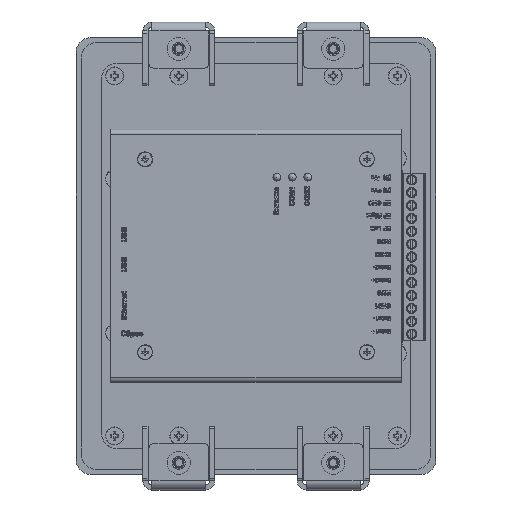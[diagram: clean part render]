
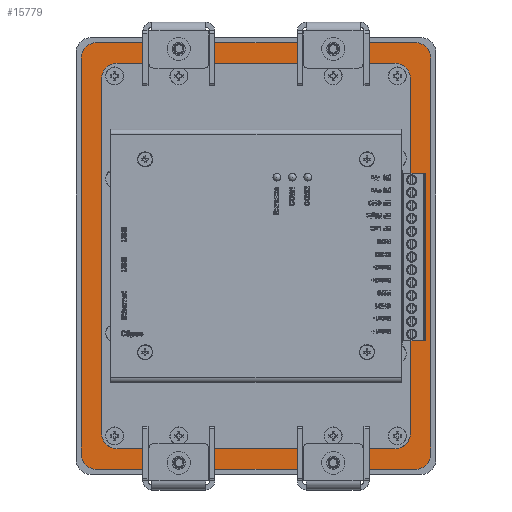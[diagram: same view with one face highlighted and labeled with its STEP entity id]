
A CAD part, top view. The second image highlights one B-rep face of the part: STEP entity #15779.
In plain terms, the highlighted planar face has unit normal (0, 0, 1).
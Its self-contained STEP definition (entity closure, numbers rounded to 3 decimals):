
#15779=ADVANCED_FACE('',(#55398,#55400),#55402,.F.);
#55398=FACE_BOUND('',#55399,.T.);
#55399=EDGE_LOOP('',(#88155,#88156,#88157,#88158,#88159,#88160,#88161,#88162));
#55400=FACE_BOUND('',#55401,.T.);
#55401=EDGE_LOOP('',(#88163,#88164,#88165,#88166,#88167,#88168,#88169,#88170));
#55402=PLANE('',#55403);
#55403=AXIS2_PLACEMENT_3D('',#55404,#55405,#55406);
#55404=CARTESIAN_POINT('',(-10.952,18.403,-1.58));
#55405=DIRECTION('',(0.,0.,-1.));
#55406=DIRECTION('',(0.,1.,0.));
#88155=ORIENTED_EDGE('',*,*,#113548,.F.);
#88156=ORIENTED_EDGE('',*,*,#113549,.F.);
#88157=ORIENTED_EDGE('',*,*,#113550,.F.);
#88158=ORIENTED_EDGE('',*,*,#113551,.F.);
#88159=ORIENTED_EDGE('',*,*,#113552,.F.);
#88160=ORIENTED_EDGE('',*,*,#113553,.F.);
#88161=ORIENTED_EDGE('',*,*,#113554,.F.);
#88162=ORIENTED_EDGE('',*,*,#113555,.F.);
#88163=ORIENTED_EDGE('',*,*,#112834,.T.);
#88164=ORIENTED_EDGE('',*,*,#112816,.T.);
#88165=ORIENTED_EDGE('',*,*,#112814,.T.);
#88166=ORIENTED_EDGE('',*,*,#112812,.T.);
#88167=ORIENTED_EDGE('',*,*,#112809,.T.);
#88168=ORIENTED_EDGE('',*,*,#112840,.T.);
#88169=ORIENTED_EDGE('',*,*,#112838,.T.);
#88170=ORIENTED_EDGE('',*,*,#112836,.T.);
#112809=EDGE_CURVE('',#128955,#128956,#128957,.F.);
#112812=EDGE_CURVE('',#128960,#128955,#128961,.F.);
#112814=EDGE_CURVE('',#128963,#128960,#128964,.F.);
#112816=EDGE_CURVE('',#128966,#128963,#128967,.F.);
#112834=EDGE_CURVE('',#129001,#128966,#129002,.F.);
#112836=EDGE_CURVE('',#129004,#129001,#129005,.F.);
#112838=EDGE_CURVE('',#129007,#129004,#129008,.F.);
#112840=EDGE_CURVE('',#128956,#129007,#129010,.F.);
#113548=EDGE_CURVE('',#130337,#130338,#130339,.T.);
#113549=EDGE_CURVE('',#130340,#130337,#130341,.T.);
#113550=EDGE_CURVE('',#130342,#130340,#130343,.T.);
#113551=EDGE_CURVE('',#130344,#130342,#130345,.T.);
#113552=EDGE_CURVE('',#130346,#130344,#130347,.T.);
#113553=EDGE_CURVE('',#130348,#130346,#130349,.T.);
#113554=EDGE_CURVE('',#130350,#130348,#130351,.T.);
#113555=EDGE_CURVE('',#130338,#130350,#130352,.T.);
#128955=VERTEX_POINT('',#164067);
#128956=VERTEX_POINT('',#164068);
#128957=CIRCLE('',#164069,6.);
#128960=VERTEX_POINT('',#164079);
#128961=LINE('',#164080,#164081);
#128963=VERTEX_POINT('',#164086);
#128964=CIRCLE('',#164087,6.);
#128966=VERTEX_POINT('',#164094);
#128967=LINE('',#164095,#164096);
#129001=VERTEX_POINT('',#164165);
#129002=CIRCLE('',#164166,6.);
#129004=VERTEX_POINT('',#164173);
#129005=LINE('',#164174,#164175);
#129007=VERTEX_POINT('',#164180);
#129008=CIRCLE('',#164181,6.);
#129010=LINE('',#164188,#164189);
#130337=VERTEX_POINT('',#167222);
#130338=VERTEX_POINT('',#167223);
#130339=LINE('',#167224,#167225);
#130340=VERTEX_POINT('',#167227);
#130341=CIRCLE('',#167228,6.);
#130342=VERTEX_POINT('',#167232);
#130343=LINE('',#167233,#167234);
#130344=VERTEX_POINT('',#167236);
#130345=CIRCLE('',#167237,6.);
#130346=VERTEX_POINT('',#167241);
#130347=LINE('',#167242,#167243);
#130348=VERTEX_POINT('',#167245);
#130349=CIRCLE('',#167246,6.);
#130350=VERTEX_POINT('',#167250);
#130351=LINE('',#167251,#167252);
#130352=CIRCLE('',#167254,6.);
#164067=CARTESIAN_POINT('',(49.048,-50.597,-1.58));
#164068=CARTESIAN_POINT('',(43.048,-56.597,-1.58));
#164069=AXIS2_PLACEMENT_3D('',#164070,#164071,#164072);
#164070=CARTESIAN_POINT('',(43.048,-50.597,-1.58));
#164071=DIRECTION('',(0.,0.,1.));
#164072=DIRECTION('',(0.,-1.,0.));
#164079=CARTESIAN_POINT('',(49.048,87.403,-1.58));
#164080=CARTESIAN_POINT('',(49.048,-50.597,-1.58));
#164081=VECTOR('',#164082,1.);
#164082=DIRECTION('',(0.,1.,0.));
#164086=CARTESIAN_POINT('',(43.048,93.403,-1.58));
#164087=AXIS2_PLACEMENT_3D('',#164088,#164089,#164090);
#164088=CARTESIAN_POINT('',(43.048,87.403,-1.58));
#164089=DIRECTION('',(0.,0.,1.));
#164090=DIRECTION('',(1.,0.,0.));
#164094=CARTESIAN_POINT('',(-64.952,93.403,-1.58));
#164095=CARTESIAN_POINT('',(43.048,93.403,-1.58));
#164096=VECTOR('',#164097,1.);
#164097=DIRECTION('',(-1.,0.,0.));
#164165=CARTESIAN_POINT('',(-70.952,87.403,-1.58));
#164166=AXIS2_PLACEMENT_3D('',#164167,#164168,#164169);
#164167=CARTESIAN_POINT('',(-64.952,87.403,-1.58));
#164168=DIRECTION('',(0.,0.,1.));
#164169=DIRECTION('',(0.,1.,0.));
#164173=CARTESIAN_POINT('',(-70.952,-50.597,-1.58));
#164174=CARTESIAN_POINT('',(-70.952,87.403,-1.58));
#164175=VECTOR('',#164176,1.);
#164176=DIRECTION('',(0.,-1.,0.));
#164180=CARTESIAN_POINT('',(-64.952,-56.597,-1.58));
#164181=AXIS2_PLACEMENT_3D('',#164182,#164183,#164184);
#164182=CARTESIAN_POINT('',(-64.952,-50.597,-1.58));
#164183=DIRECTION('',(0.,0.,1.));
#164184=DIRECTION('',(-1.,0.,0.));
#164188=CARTESIAN_POINT('',(-64.952,-56.597,-1.58));
#164189=VECTOR('',#164190,1.);
#164190=DIRECTION('',(1.,0.,0.));
#167222=CARTESIAN_POINT('',(-78.952,-58.597,-1.58));
#167223=CARTESIAN_POINT('',(-78.952,95.403,-1.58));
#167224=CARTESIAN_POINT('',(-78.952,-58.597,-1.58));
#167225=VECTOR('',#167226,1.);
#167226=DIRECTION('',(0.,1.,0.));
#167227=CARTESIAN_POINT('',(-72.952,-64.597,-1.58));
#167228=AXIS2_PLACEMENT_3D('',#167229,#167230,#167231);
#167229=CARTESIAN_POINT('',(-72.952,-58.597,-1.58));
#167230=DIRECTION('',(0.,0.,-1.));
#167231=DIRECTION('',(0.,-1.,0.));
#167232=CARTESIAN_POINT('',(51.048,-64.597,-1.58));
#167233=CARTESIAN_POINT('',(51.048,-64.597,-1.58));
#167234=VECTOR('',#167235,1.);
#167235=DIRECTION('',(-1.,0.,0.));
#167236=CARTESIAN_POINT('',(57.048,-58.597,-1.58));
#167237=AXIS2_PLACEMENT_3D('',#167238,#167239,#167240);
#167238=CARTESIAN_POINT('',(51.048,-58.597,-1.58));
#167239=DIRECTION('',(0.,0.,-1.));
#167240=DIRECTION('',(1.,0.,0.));
#167241=CARTESIAN_POINT('',(57.048,95.403,-1.58));
#167242=CARTESIAN_POINT('',(57.048,95.403,-1.58));
#167243=VECTOR('',#167244,1.);
#167244=DIRECTION('',(0.,-1.,0.));
#167245=CARTESIAN_POINT('',(51.048,101.403,-1.58));
#167246=AXIS2_PLACEMENT_3D('',#167247,#167248,#167249);
#167247=CARTESIAN_POINT('',(51.048,95.403,-1.58));
#167248=DIRECTION('',(0.,0.,-1.));
#167249=DIRECTION('',(0.,1.,0.));
#167250=CARTESIAN_POINT('',(-72.952,101.403,-1.58));
#167251=CARTESIAN_POINT('',(-72.952,101.403,-1.58));
#167252=VECTOR('',#167253,1.);
#167253=DIRECTION('',(1.,0.,0.));
#167254=AXIS2_PLACEMENT_3D('',#167255,#167256,#167257);
#167255=CARTESIAN_POINT('',(-72.952,95.403,-1.58));
#167256=DIRECTION('',(0.,0.,-1.));
#167257=DIRECTION('',(-1.,0.,0.));
